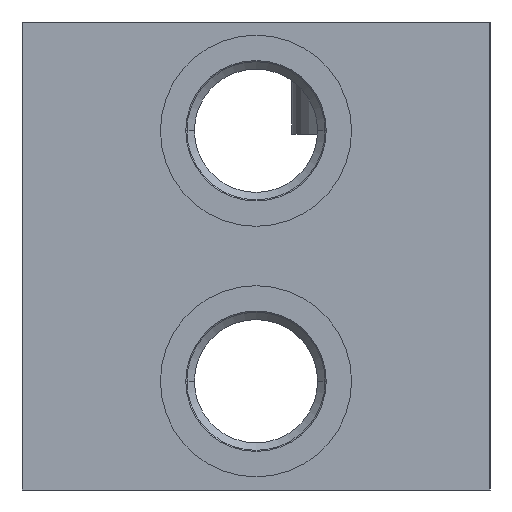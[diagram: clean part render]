
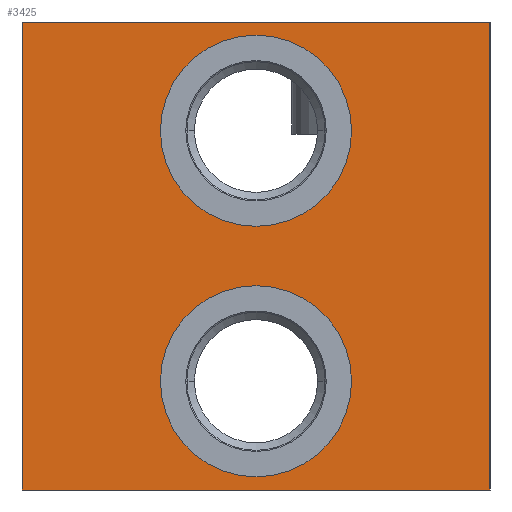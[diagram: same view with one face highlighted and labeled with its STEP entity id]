
A CAD part, left-side view. The second image highlights one B-rep face of the part: STEP entity #3425.
In plain terms, the highlighted planar face has unit normal (-1, 0, 0).
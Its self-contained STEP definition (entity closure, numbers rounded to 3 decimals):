
#30=DIRECTION('',(0.,-1.,0.));
#31=VECTOR('',#30,71.);
#32=CARTESIAN_POINT('',(0.,71.,0.));
#33=LINE('',#32,#31);
#131=DIRECTION('',(0.,0.,-1.));
#132=VECTOR('',#131,71.);
#133=CARTESIAN_POINT('',(0.,0.,0.));
#134=LINE('',#133,#132);
#582=DIRECTION('',(0.,0.,-1.));
#583=VECTOR('',#582,71.);
#584=CARTESIAN_POINT('',(0.,71.,0.));
#585=LINE('',#584,#583);
#589=CARTESIAN_POINT('',(0.,35.5,-54.5));
#590=DIRECTION('',(1.,0.,0.));
#591=DIRECTION('',(0.,-1.,0.));
#592=AXIS2_PLACEMENT_3D('',#589,#590,#591);
#597=CARTESIAN_POINT('',(0.,35.5,-54.5));
#598=DIRECTION('',(1.,0.,0.));
#599=DIRECTION('',(0.,1.,0.));
#600=AXIS2_PLACEMENT_3D('',#597,#598,#599);
#605=CARTESIAN_POINT('',(0.,35.5,-16.5));
#606=DIRECTION('',(1.,0.,0.));
#607=DIRECTION('',(0.,-1.,0.));
#608=AXIS2_PLACEMENT_3D('',#605,#606,#607);
#613=CARTESIAN_POINT('',(0.,35.5,-16.5));
#614=DIRECTION('',(1.,0.,0.));
#615=DIRECTION('',(0.,1.,0.));
#616=AXIS2_PLACEMENT_3D('',#613,#614,#615);
#642=DIRECTION('',(0.,-1.,0.));
#643=VECTOR('',#642,71.);
#644=CARTESIAN_POINT('',(0.,71.,-71.));
#645=LINE('',#644,#643);
#2782=CARTESIAN_POINT('',(0.,0.,0.));
#2784=VERTEX_POINT('',#2782);
#2788=CARTESIAN_POINT('',(0.,71.,0.));
#2789=VERTEX_POINT('',#2788);
#2790=CARTESIAN_POINT('',(0.,0.,-71.));
#2792=VERTEX_POINT('',#2790);
#2796=CARTESIAN_POINT('',(0.,71.,-71.));
#2797=VERTEX_POINT('',#2796);
#2826=CARTESIAN_POINT('',(0.,21.,-54.5));
#2827=CARTESIAN_POINT('',(0.,50.,-54.5));
#2828=VERTEX_POINT('',#2826);
#2829=VERTEX_POINT('',#2827);
#2842=CARTESIAN_POINT('',(0.,21.,-16.5));
#2843=CARTESIAN_POINT('',(0.,50.,-16.5));
#2844=VERTEX_POINT('',#2842);
#2845=VERTEX_POINT('',#2843);
#3401=CARTESIAN_POINT('',(0.,71.,0.));
#3402=DIRECTION('',(-1.,0.,0.));
#3403=DIRECTION('',(0.,-1.,0.));
#3404=AXIS2_PLACEMENT_3D('',#3401,#3402,#3403);
#3405=PLANE('',#3404);
#3406=ORIENTED_EDGE('',*,*,#3177,.T.);
#3407=ORIENTED_EDGE('',*,*,#3233,.T.);
#3409=ORIENTED_EDGE('',*,*,#3408,.F.);
#3410=ORIENTED_EDGE('',*,*,#3320,.F.);
#3411=EDGE_LOOP('',(#3406,#3407,#3409,#3410));
#3412=FACE_OUTER_BOUND('',#3411,.F.);
#3414=ORIENTED_EDGE('',*,*,#3413,.F.);
#3416=ORIENTED_EDGE('',*,*,#3415,.F.);
#3417=EDGE_LOOP('',(#3414,#3416));
#3418=FACE_BOUND('',#3417,.F.);
#3420=ORIENTED_EDGE('',*,*,#3419,.F.);
#3422=ORIENTED_EDGE('',*,*,#3421,.F.);
#3423=EDGE_LOOP('',(#3420,#3422));
#3424=FACE_BOUND('',#3423,.F.);
#593=CIRCLE('',#592,14.5);
#601=CIRCLE('',#600,14.5);
#609=CIRCLE('',#608,14.5);
#617=CIRCLE('',#616,14.5);
#3177=EDGE_CURVE('',#2789,#2784,#33,.T.);
#3233=EDGE_CURVE('',#2784,#2792,#134,.T.);
#3320=EDGE_CURVE('',#2789,#2797,#585,.T.);
#3408=EDGE_CURVE('',#2797,#2792,#645,.T.);
#3413=EDGE_CURVE('',#2828,#2829,#593,.T.);
#3415=EDGE_CURVE('',#2829,#2828,#601,.T.);
#3419=EDGE_CURVE('',#2844,#2845,#609,.T.);
#3421=EDGE_CURVE('',#2845,#2844,#617,.T.);
#3425=ADVANCED_FACE('',(#3412,#3418,#3424),#3405,.T.);
